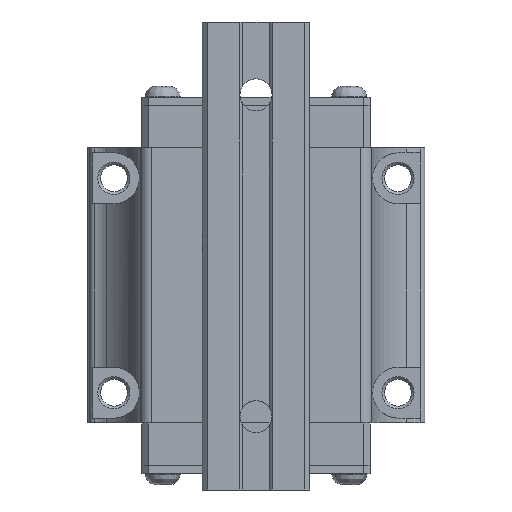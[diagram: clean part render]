
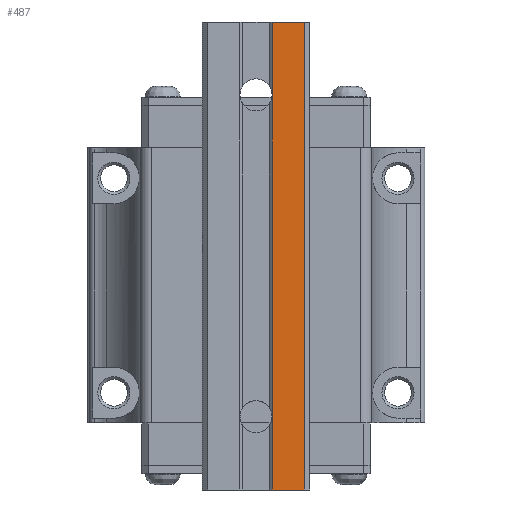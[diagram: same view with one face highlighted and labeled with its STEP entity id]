
A CAD part, front view. The second image highlights one B-rep face of the part: STEP entity #487.
In plain terms, the highlighted planar face has unit normal (0, -1, 0).
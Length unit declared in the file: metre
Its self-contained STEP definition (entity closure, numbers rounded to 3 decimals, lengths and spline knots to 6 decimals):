
#487 = ADVANCED_FACE( '', ( #1192 ), #1193, .F. );
#1192 = FACE_OUTER_BOUND( '', #2186, .T. );
#1193 = PLANE( '', #2187 );
#2186 = EDGE_LOOP( '', ( #3753, #3754, #3755, #3756, #3757, #3758 ) );
#2187 = AXIS2_PLACEMENT_3D( '', #3759, #3760, #3761 );
#3753 = ORIENTED_EDGE( '', *, *, #6200, .T. );
#3754 = ORIENTED_EDGE( '', *, *, #6201, .F. );
#3755 = ORIENTED_EDGE( '', *, *, #6202, .F. );
#3756 = ORIENTED_EDGE( '', *, *, #6203, .F. );
#3757 = ORIENTED_EDGE( '', *, *, #6204, .F. );
#3758 = ORIENTED_EDGE( '', *, *, #6205, .T. );
#3759 = CARTESIAN_POINT( '', ( 0.009, 0., -0.0873 ) );
#3760 = DIRECTION( '', ( 0., 1., 0. ) );
#3761 = DIRECTION( '', ( 1., 0., 0. ) );
#6200 = EDGE_CURVE( '', #7571, #7572, #7573, .T. );
#6201 = EDGE_CURVE( '', #7574, #7572, #7575, .T. );
#6202 = EDGE_CURVE( '', #7576, #7574, #7577, .T. );
#6203 = EDGE_CURVE( '', #7578, #7576, #7579, .T. );
#6204 = EDGE_CURVE( '', #7580, #7578, #7581, .T. );
#6205 = EDGE_CURVE( '', #7580, #7571, #7582, .T. );
#7571 = VERTEX_POINT( '', #9488 );
#7572 = VERTEX_POINT( '', #9489 );
#7573 = LINE( '', #9490, #9491 );
#7574 = VERTEX_POINT( '', #9492 );
#7575 = LINE( '', #9493, #9494 );
#7576 = VERTEX_POINT( '', #9495 );
#7577 = LINE( '', #9496, #9497 );
#7578 = VERTEX_POINT( '', #9498 );
#7579 = LINE( '', #9499, #9500 );
#7580 = VERTEX_POINT( '', #9501 );
#7581 = LINE( '', #9502, #9503 );
#7582 = LINE( '', #9504, #9505 );
#9488 = CARTESIAN_POINT( '', ( 0.009, 0., 0. ) );
#9489 = CARTESIAN_POINT( '', ( 0.003, 0., 0. ) );
#9490 = CARTESIAN_POINT( '', ( 0.009, 0., 0. ) );
#9491 = VECTOR( '', #11261, 1. );
#9492 = CARTESIAN_POINT( '', ( 0.003, 0., -0.0136 ) );
#9493 = CARTESIAN_POINT( '', ( 0.003, 0., -0.0873 ) );
#9494 = VECTOR( '', #11262, 1. );
#9495 = CARTESIAN_POINT( '', ( 0.003, 0., -0.0736 ) );
#9496 = CARTESIAN_POINT( '', ( 0.003, 0., -0.0873 ) );
#9497 = VECTOR( '', #11263, 1. );
#9498 = CARTESIAN_POINT( '', ( 0.003, 0., -0.0873 ) );
#9499 = CARTESIAN_POINT( '', ( 0.003, 0., -0.0873 ) );
#9500 = VECTOR( '', #11264, 1. );
#9501 = CARTESIAN_POINT( '', ( 0.009, 0., -0.0873 ) );
#9502 = CARTESIAN_POINT( '', ( 0.009, 0., -0.0873 ) );
#9503 = VECTOR( '', #11265, 1. );
#9504 = CARTESIAN_POINT( '', ( 0.009, 0., -0.0873 ) );
#9505 = VECTOR( '', #11266, 1. );
#11261 = DIRECTION( '', ( -1., 0., 0. ) );
#11262 = DIRECTION( '', ( 0., 0., 1. ) );
#11263 = DIRECTION( '', ( 0., 0., 1. ) );
#11264 = DIRECTION( '', ( 0., 0., 1. ) );
#11265 = DIRECTION( '', ( -1., 0., 0. ) );
#11266 = DIRECTION( '', ( 0., 0., 1. ) );
